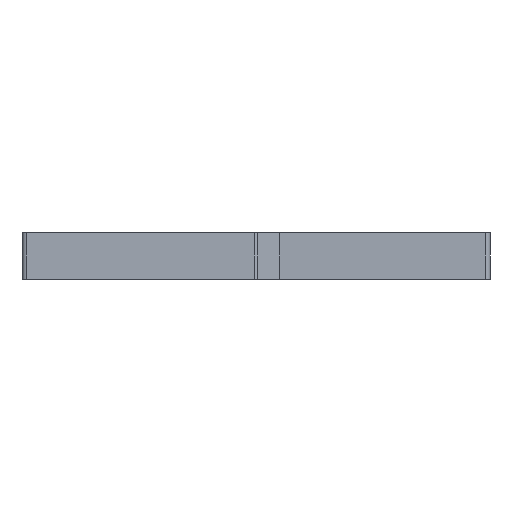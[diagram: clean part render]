
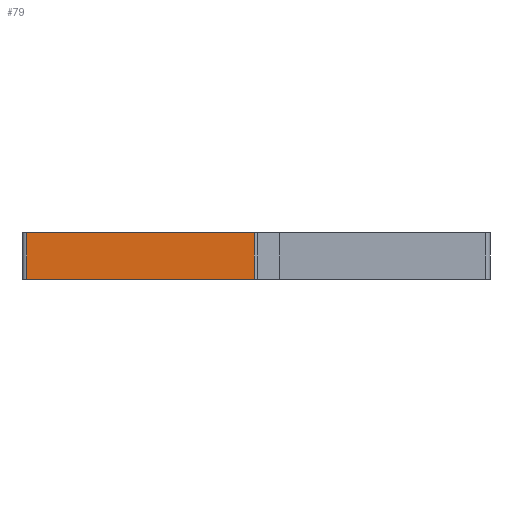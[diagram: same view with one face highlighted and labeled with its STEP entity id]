
A CAD part, left-side view. The second image highlights one B-rep face of the part: STEP entity #79.
In plain terms, the highlighted planar face has unit normal (-1, 0, 0) as drawn and (0, 0, -1) by its records, which use the part's own axes.
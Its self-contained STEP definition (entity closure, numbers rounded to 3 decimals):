
#5 = VECTOR ( 'NONE', #844, 1000. ) ;
#32 = VERTEX_POINT ( 'NONE', #338 ) ;
#77 = ORIENTED_EDGE ( 'NONE', *, *, #858, .T. ) ;
#79 = ADVANCED_FACE ( 'NONE', ( #192 ), #791, .T. ) ;
#93 = DIRECTION ( 'NONE',  ( 0., 1., 0. ) ) ;
#125 = VECTOR ( 'NONE', #281, 1000. ) ;
#182 = DIRECTION ( 'NONE',  ( 0., 0., -1. ) ) ;
#192 = FACE_OUTER_BOUND ( 'NONE', #216, .T. ) ;
#196 = EDGE_CURVE ( 'NONE', #630, #32, #291, .T. ) ;
#211 = AXIS2_PLACEMENT_3D ( 'NONE', #265, #182, #463 ) ;
#216 = EDGE_LOOP ( 'NONE', ( #509, #369, #379, #77 ) ) ;
#265 = CARTESIAN_POINT ( 'NONE',  ( 0., 0., -25. ) ) ;
#273 = CARTESIAN_POINT ( 'NONE',  ( 10., 0.414, -25. ) ) ;
#281 = DIRECTION ( 'NONE',  ( -1., 0., 0. ) ) ;
#288 = VERTEX_POINT ( 'NONE', #856 ) ;
#291 = LINE ( 'NONE', #563, #125 ) ;
#338 = CARTESIAN_POINT ( 'NONE',  ( 0., 49., -25. ) ) ;
#345 = VECTOR ( 'NONE', #349, 1000. ) ;
#349 = DIRECTION ( 'NONE',  ( -1., 0., 0. ) ) ;
#369 = ORIENTED_EDGE ( 'NONE', *, *, #196, .F. ) ;
#373 = LINE ( 'NONE', #502, #5 ) ;
#379 = ORIENTED_EDGE ( 'NONE', *, *, #635, .F. ) ;
#415 = LINE ( 'NONE', #273, #345 ) ;
#429 = LINE ( 'NONE', #704, #529 ) ;
#463 = DIRECTION ( 'NONE',  ( 0., -1., 0. ) ) ;
#502 = CARTESIAN_POINT ( 'NONE',  ( 0., 0.414, -25. ) ) ;
#509 = ORIENTED_EDGE ( 'NONE', *, *, #605, .T. ) ;
#529 = VECTOR ( 'NONE', #93, 1000. ) ;
#555 = CARTESIAN_POINT ( 'NONE',  ( 10., 49., -25. ) ) ;
#563 = CARTESIAN_POINT ( 'NONE',  ( 10., 49., -25. ) ) ;
#588 = CARTESIAN_POINT ( 'NONE',  ( 0., 0.414, -25. ) ) ;
#605 = EDGE_CURVE ( 'NONE', #759, #32, #373, .T. ) ;
#630 = VERTEX_POINT ( 'NONE', #555 ) ;
#635 = EDGE_CURVE ( 'NONE', #288, #630, #429, .T. ) ;
#704 = CARTESIAN_POINT ( 'NONE',  ( 10., 0.414, -25. ) ) ;
#759 = VERTEX_POINT ( 'NONE', #588 ) ;
#791 = PLANE ( 'NONE',  #211 ) ;
#844 = DIRECTION ( 'NONE',  ( 0., 1., 0. ) ) ;
#856 = CARTESIAN_POINT ( 'NONE',  ( 10., 0.414, -25. ) ) ;
#858 = EDGE_CURVE ( 'NONE', #288, #759, #415, .T. ) ;
